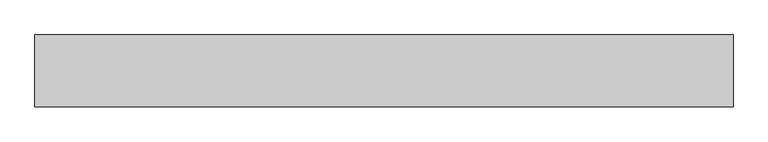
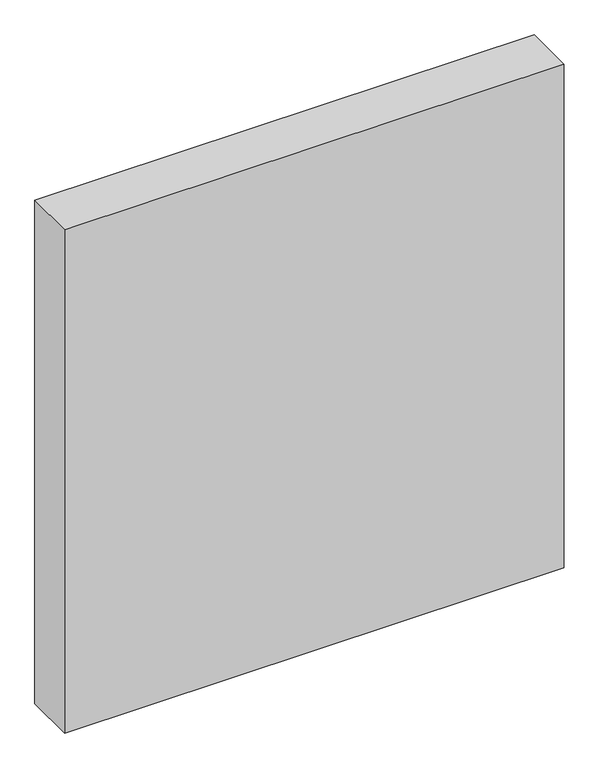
"""IFC4 building model written with IfcOpenShell, lengths in millimetres: proxy geometry."""

import ifcopenshell
import ifcopenshell.guid

model = None  # the IFC model being written
_history = None  # IfcOwnerHistory: only IFC2X3 demands one
_inside = {}  # id of a spatial element -> (the spatial element, [elements in it])
_under = {}  # id of a project, library or spatial element -> (it, [spatial elements below it])
_declared = {}  # id of a project -> (the project, [libraries it declares])
_typed = {}  # id of a type object -> (the type object, [elements of that type])
_made_of = {}  # id of a material, layer set ... -> (it, [elements and type objects made of it])


def new_model(schema):
    """Start an empty IFC model of exactly this schema.

    Asked for "IFC4X3", IfcOpenShell would pick the latest addendum, in which some entities
    have other attributes; the version numbers below select the first issue.
    IFC2X3 requires an IfcOwnerHistory on every rooted entity: one is made here for all.
    """
    global model, _history
    if schema == "IFC4X3":
        model = ifcopenshell.file(schema_version=(4, 3, 0, 0))
    else:
        model = ifcopenshell.file(schema=schema)
    _inside.clear()
    _under.clear()
    _declared.clear()
    _typed.clear()
    _made_of.clear()
    _history = None
    if model.schema == "IFC2X3":
        org = make("IfcOrganization", Name="unknown")
        user = make(
            "IfcPersonAndOrganization",
            ThePerson=make("IfcPerson", FamilyName="unknown"),
            TheOrganization=org,
        )
        app = make(
            "IfcApplication",
            ApplicationDeveloper=org,
            Version="unknown",
            ApplicationFullName="unknown",
            ApplicationIdentifier="unknown",
        )
        _history = make(
            "IfcOwnerHistory",
            OwningUser=user,
            OwningApplication=app,
            ChangeAction="ADDED",
            CreationDate=0,
        )
    return model


def make(cls, **values):
    """One entity of the class cls with the attributes given. An attribute that is None is left unset."""
    return model.create_entity(
        cls, **{name: value for name, value in values.items() if value is not None}
    )


def rooted(cls, **values):
    """An entity with a GlobalId (a new one), such as an element, a storey or a relation."""
    return make(cls, GlobalId=ifcopenshell.guid.new(), OwnerHistory=_history, **values)


def si_unit(unit_type, name, prefix=None):
    """IfcSIUnit, for example si_unit("LENGTHUNIT", "METRE", prefix="MILLI")."""
    return make("IfcSIUnit", UnitType=unit_type, Prefix=prefix, Name=name)


def assignment(units):
    """IfcUnitAssignment: the units of a project."""
    return None if units is None else make("IfcUnitAssignment", Units=units)


def point(xyz):
    """IfcCartesianPoint."""
    return None if xyz is None else make("IfcCartesianPoint", Coordinates=xyz)


def direction(xyz):
    """IfcDirection."""
    return None if xyz is None else make("IfcDirection", DirectionRatios=xyz)


def frame(location, z_axis=None, x_axis=None):
    """IfcAxis2Placement3D, a coordinate frame: its origin and axes. An axis left out is left unset."""
    return make(
        "IfcAxis2Placement3D",
        Location=point(location),
        Axis=direction(z_axis),
        RefDirection=direction(x_axis),
    )


def origin():
    """The frame at (0, 0, 0) with its axes left unset."""
    return frame((0.0, 0.0, 0.0))


def origin_with_axes():
    """The frame at (0, 0, 0) with the z axis (0, 0, 1) and the x axis (1, 0, 0) written out."""
    return frame((0.0, 0.0, 0.0), z_axis=(0.0, 0.0, 1.0), x_axis=(1.0, 0.0, 0.0))


def place(relative_to, where):
    """IfcLocalPlacement: puts the frame where relative to a parent placement (None: the world)."""
    return make(
        "IfcLocalPlacement", PlacementRelTo=relative_to, RelativePlacement=where
    )


def context(
    kind, dimensions, precision=None, world=None, true_north=None, identifier=None
):
    """IfcGeometricRepresentationContext, for example the 3D "Model" context."""
    return make(
        "IfcGeometricRepresentationContext",
        ContextIdentifier=identifier,
        ContextType=kind,
        CoordinateSpaceDimension=dimensions,
        Precision=precision,
        WorldCoordinateSystem=world,
        TrueNorth=true_north,
    )


def project(units=None, contexts=None):
    """IfcProject with its units and contexts."""
    return rooted(
        "IfcProject",
        Name="project",
        RepresentationContexts=contexts,
        UnitsInContext=assignment(units),
    )


def spatial(cls, under=None, at=None, **own):
    """A site, building, storey or space (cls), placed at a placement, below another one or the project."""
    s = rooted(cls, ObjectPlacement=at, **own)
    if under is not None:
        _under.setdefault(under.id(), (under, []))[1].append(s)
    return s


def polyline(points):
    """IfcPolyline through the points."""
    return make("IfcPolyline", Points=[point(p) for p in points])


def outline(outer, holes=None, kind="AREA"):
    """IfcArbitraryClosedProfileDef: a profile drawn as a closed curve; with holes, ...WithVoids."""
    if holes is None:
        return make("IfcArbitraryClosedProfileDef", ProfileType=kind, OuterCurve=outer)
    return make(
        "IfcArbitraryProfileDefWithVoids",
        ProfileType=kind,
        OuterCurve=outer,
        InnerCurves=holes,
    )


def extrude(swept, where, along, depth):
    """IfcExtrudedAreaSolid: the profile swept, set in the frame where, extruded along a direction by depth."""
    return make(
        "IfcExtrudedAreaSolid",
        SweptArea=swept,
        Position=where,
        ExtrudedDirection=direction(along),
        Depth=depth,
    )


def shape(context_of_items, identifier, shape_type, items):
    """IfcShapeRepresentation: the items that make up one representation, for example the "Body"."""
    return make(
        "IfcShapeRepresentation",
        ContextOfItems=context_of_items,
        RepresentationIdentifier=identifier,
        RepresentationType=shape_type,
        Items=items,
    )


def source(mapping_origin, context_of_items, identifier, shape_type, items):
    """IfcRepresentationMap: a shape defined once, which mapped items show again and again."""
    return make(
        "IfcRepresentationMap",
        MappingOrigin=mapping_origin,
        MappedRepresentation=shape(context_of_items, identifier, shape_type, items),
    )


def transform(
    local_origin,
    x_axis=None,
    y_axis=None,
    z_axis=None,
    scale=None,
    scale2=None,
    scale3=None,
    uniform=True,
):
    """IfcCartesianTransformationOperator3D, or its non-uniform kind. x_axis, y_axis, z_axis: its Axis1, 2, 3."""
    if uniform:
        return make(
            "IfcCartesianTransformationOperator3D",
            Axis1=direction(x_axis),
            Axis2=direction(y_axis),
            LocalOrigin=point(local_origin),
            Scale=scale,
            Axis3=direction(z_axis),
        )
    return make(
        "IfcCartesianTransformationOperator3DnonUniform",
        Axis1=direction(x_axis),
        Axis2=direction(y_axis),
        LocalOrigin=point(local_origin),
        Scale=scale,
        Axis3=direction(z_axis),
        Scale2=scale2,
        Scale3=scale3,
    )


def mapped(mapping_source, mapping_target):
    """IfcMappedItem: shows the shape of a source again, moved by a transform."""
    return make(
        "IfcMappedItem", MappingSource=mapping_source, MappingTarget=mapping_target
    )


def made_of(thing, what):
    """Note that an element or type object is made of a material, layer set ...; save() writes the relation."""
    if what is not None:
        _made_of.setdefault(what.id(), (what, []))[1].append(thing)
    return thing


def element(
    cls,
    number,
    at=None,
    inside=None,
    cuts=None,
    type_object=None,
    material=None,
    context=None,
    identifier="Body",
    shape_type=None,
    held_by="IfcProductDefinitionShape",
    body=None,
    shapes=None,
    **own,
):
    """One element of the class cls, such as IfcWall. Its Tag is "e" and its number.

    at: its placement. inside: the storey or other place that contains it. cuts: it is an
    opening in that element (IfcRelVoidsElement). A single representation is given by context,
    identifier, shape_type and body (its items); several are given by shapes. held_by: the class
    of the entity that holds the representations. save() writes the other relations.
    """
    e = rooted(cls, Tag="e%d" % number, ObjectPlacement=at, **own)
    if body is not None:
        shapes = [shape(context, identifier, shape_type, body)]
    if shapes is not None:
        e.Representation = make(held_by, Representations=shapes)
    if inside is not None:
        _inside.setdefault(inside.id(), (inside, []))[1].append(e)
    if cuts is not None:
        rooted(
            "IfcRelVoidsElement", RelatingBuildingElement=cuts, RelatedOpeningElement=e
        )
    if type_object is not None:
        _typed.setdefault(type_object.id(), (type_object, []))[1].append(e)
    return made_of(e, material)


def aggregate(whole, parts):
    """IfcRelAggregates: a whole, such as a stair, and the parts it consists of."""
    return rooted("IfcRelAggregates", RelatingObject=whole, RelatedObjects=parts)


def save(model, path):
    """Write the relations noted so far, then the file.

    IfcRelAggregates (storeys below a building ...), IfcRelContainedInSpatialStructure (elements
    in a storey), IfcRelDefinesByType, IfcRelAssociatesMaterial and IfcRelDeclares: one each for
    every whole, place, type object, material and project.
    """
    for whole, parts in _under.values():
        aggregate(whole, parts)
    for where, things in _inside.values():
        rooted(
            "IfcRelContainedInSpatialStructure",
            RelatedElements=things,
            RelatingStructure=where,
        )
    for kind, things in _typed.values():
        rooted("IfcRelDefinesByType", RelatedObjects=things, RelatingType=kind)
    for what, things in _made_of.values():
        rooted("IfcRelAssociatesMaterial", RelatedObjects=things, RelatingMaterial=what)
    for by, libraries in _declared.values():
        rooted("IfcRelDeclares", RelatingContext=by, RelatedDefinitions=libraries)
    model.write(path)


def generic_models_8873dad7(model_context):
    return source(origin(), model_context, "Body", "SweptSolid", [
        extrude(outline(polyline([(1950.0, 0.0), (0.0, 0.0), (0.0, 200.0), (1950.0, 200.0), (1950.0, 0.0)])), origin_with_axes(), (0.0, 0.0, 1.0), 2075.0),
    ])


if __name__ == "__main__":
    model = new_model("IFC4")
    model_context = context("Model", 3, world=origin())
    ifc_project = project(units=[si_unit("LENGTHUNIT", "METRE", prefix="MILLI")], contexts=[model_context])
    site = spatial("IfcSite", under=ifc_project)
    building = spatial("IfcBuilding", under=site)
    placement = place(None, origin())
    generic_models_shape = generic_models_8873dad7(model_context)
    element("IfcBuildingElementProxy", 1, Name="Generic Models", at=placement, inside=building, context=model_context, shape_type="MappedRepresentation", body=[
        mapped(generic_models_shape, transform((0.0, 0.0, 0.0), x_axis=(1.0, 0.0, 0.0), y_axis=(0.0, 1.0, 0.0), z_axis=(0.0, 0.0, 1.0))),
    ])
    save(model, "model.ifc")
